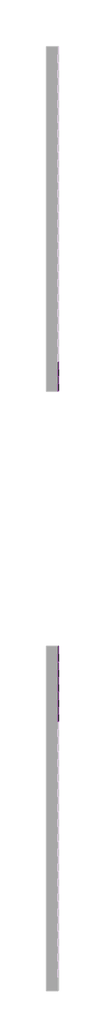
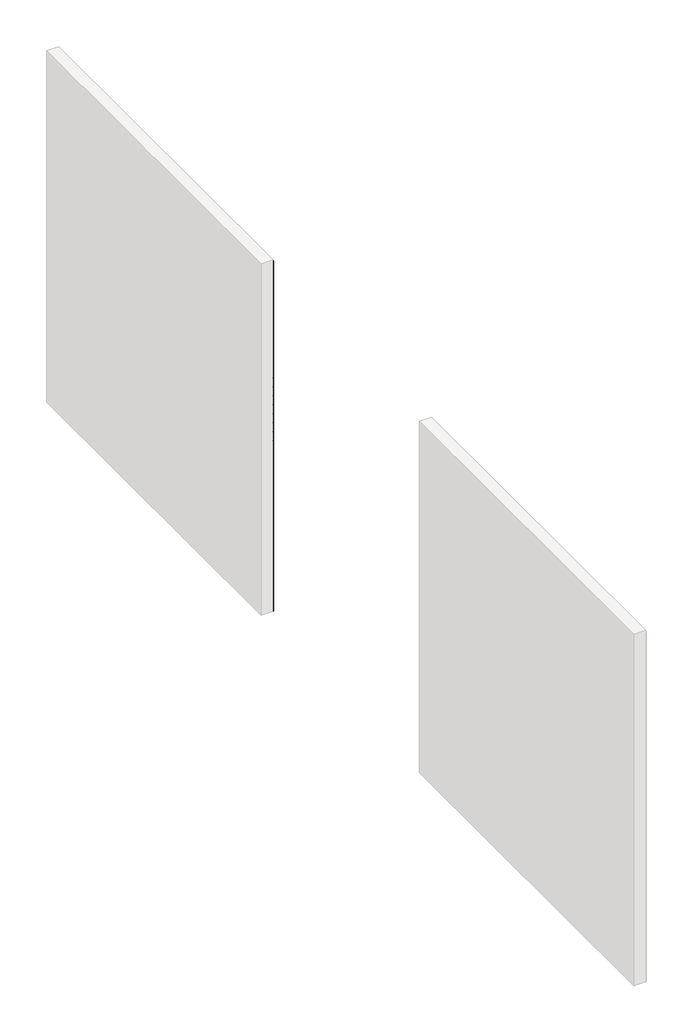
# One storey, part 4 of 45: 147 proxies.
"""IFC4 building model written with IfcOpenShell, lengths in millimetres."""

from ifc_helpers import new_model, si_unit, origin, place, context, project, spatial, transform, mapped, element, save
from components import generic_models_ab0f2c30, generic_models_1527efce

model = new_model("IFC4")

# Units and contexts
model_context = context("Model", 3, world=origin())
ifc_project = project(units=[si_unit("LENGTHUNIT", "METRE", prefix="MILLI")], contexts=[model_context])

# Site, building, storey
site = spatial("IfcSite", under=ifc_project)
building = spatial("IfcBuilding", under=site)
storey = spatial("IfcBuildingStorey", under=building, Name="PORTOBELLO - SHOWROOM", Elevation=0.0)

# Proxies
placement = place(None, origin())
generic_models_shape = generic_models_ab0f2c30(model_context)
element("IfcBuildingElementProxy", 1, Name="PBSHOP - HORIZONTES JAIPUR 6,5X23 : JAIPUR CHANDRA", ObjectType="PBSHOP - HORIZONTES JAIPUR 6,5X23 : JAIPUR CHANDRA", at=placement, inside=storey, context=model_context, shape_type="MappedRepresentation", body=[
    mapped(generic_models_shape, transform((63939.1036979, 3443.9760255, 724.5), x_axis=(0.0, 0.0, 1.0), y_axis=(0.0, -1.0, 0.0), z_axis=(1.0, 0.0, 0.0))),
])
element("IfcBuildingElementProxy", 2, Name="PBSHOP - HORIZONTES JAIPUR 6,5X23 : JAIPUR CHANDRA", ObjectType="PBSHOP - HORIZONTES JAIPUR 6,5X23 : JAIPUR CHANDRA", at=placement, inside=storey, context=model_context, shape_type="MappedRepresentation", body=[
    mapped(generic_models_shape, transform((63939.1036979, 3209.9760255, 793.5), x_axis=(0.0, 0.0, 1.0), y_axis=(0.0, -1.0, 0.0), z_axis=(1.0, 0.0, 0.0))),
])
element("IfcBuildingElementProxy", 3, Name="PBSHOP - HORIZONTES JAIPUR 6,5X23 : JAIPUR CHANDRA", ObjectType="PBSHOP - HORIZONTES JAIPUR 6,5X23 : JAIPUR CHANDRA", at=placement, inside=storey, context=model_context, shape_type="MappedRepresentation", body=[
    mapped(generic_models_shape, transform((63939.1036979, 3443.9760255, 793.5), x_axis=(0.0, 0.0, 1.0), y_axis=(0.0, -1.0, 0.0), z_axis=(1.0, 0.0, 0.0))),
])
element("IfcBuildingElementProxy", 4, Name="PBSHOP - HORIZONTES JAIPUR 6,5X23 : JAIPUR CHANDRA", ObjectType="PBSHOP - HORIZONTES JAIPUR 6,5X23 : JAIPUR CHANDRA", at=placement, inside=storey, context=model_context, shape_type="MappedRepresentation", body=[
    mapped(generic_models_shape, transform((63939.1036979, 3209.9760255, 862.5), x_axis=(0.0, 0.0, 1.0), y_axis=(0.0, -1.0, 0.0), z_axis=(1.0, 0.0, 0.0))),
])
element("IfcBuildingElementProxy", 5, Name="PBSHOP - HORIZONTES JAIPUR 6,5X23 : JAIPUR CHANDRA", ObjectType="PBSHOP - HORIZONTES JAIPUR 6,5X23 : JAIPUR CHANDRA", at=placement, inside=storey, context=model_context, shape_type="MappedRepresentation", body=[
    mapped(generic_models_shape, transform((63939.1036979, 3443.9760255, 862.5), x_axis=(0.0, 0.0, 1.0), y_axis=(0.0, -1.0, 0.0), z_axis=(1.0, 0.0, 0.0))),
])
element("IfcBuildingElementProxy", 6, Name="PBSHOP - HORIZONTES JAIPUR 6,5X23 : JAIPUR CHANDRA", ObjectType="PBSHOP - HORIZONTES JAIPUR 6,5X23 : JAIPUR CHANDRA", at=placement, inside=storey, context=model_context, shape_type="MappedRepresentation", body=[
    mapped(generic_models_shape, transform((63939.1036979, 3209.9760255, 931.5), x_axis=(0.0, 0.0, 1.0), y_axis=(0.0, -1.0, 0.0), z_axis=(1.0, 0.0, 0.0))),
])
element("IfcBuildingElementProxy", 7, Name="PBSHOP - HORIZONTES JAIPUR 6,5X23 : JAIPUR CHANDRA", ObjectType="PBSHOP - HORIZONTES JAIPUR 6,5X23 : JAIPUR CHANDRA", at=placement, inside=storey, context=model_context, shape_type="MappedRepresentation", body=[
    mapped(generic_models_shape, transform((63939.1036979, 3443.9760255, 931.5), x_axis=(0.0, 0.0, 1.0), y_axis=(0.0, -1.0, 0.0), z_axis=(1.0, 0.0, 0.0))),
])
element("IfcBuildingElementProxy", 8, Name="PBSHOP - HORIZONTES JAIPUR 6,5X23 : JAIPUR CHANDRA", ObjectType="PBSHOP - HORIZONTES JAIPUR 6,5X23 : JAIPUR CHANDRA", at=placement, inside=storey, context=model_context, shape_type="MappedRepresentation", body=[
    mapped(generic_models_shape, transform((63939.1036979, 3209.9760255, 1000.5), x_axis=(0.0, 0.0, 1.0), y_axis=(0.0, -1.0, 0.0), z_axis=(1.0, 0.0, 0.0))),
])
element("IfcBuildingElementProxy", 9, Name="PBSHOP - HORIZONTES JAIPUR 6,5X23 : JAIPUR CHANDRA", ObjectType="PBSHOP - HORIZONTES JAIPUR 6,5X23 : JAIPUR CHANDRA", at=placement, inside=storey, context=model_context, shape_type="MappedRepresentation", body=[
    mapped(generic_models_shape, transform((63939.1036979, 3443.9760255, 1000.5), x_axis=(0.0, 0.0, 1.0), y_axis=(0.0, -1.0, 0.0), z_axis=(1.0, 0.0, 0.0))),
])
element("IfcBuildingElementProxy", 10, Name="PBSHOP - HORIZONTES JAIPUR 6,5X23 : JAIPUR CHANDRA", ObjectType="PBSHOP - HORIZONTES JAIPUR 6,5X23 : JAIPUR CHANDRA", at=placement, inside=storey, context=model_context, shape_type="MappedRepresentation", body=[
    mapped(generic_models_shape, transform((63939.1036979, 3209.9760255, 1069.5), x_axis=(0.0, 0.0, 1.0), y_axis=(0.0, -1.0, 0.0), z_axis=(1.0, 0.0, 0.0))),
])
element("IfcBuildingElementProxy", 11, Name="PBSHOP - HORIZONTES JAIPUR 6,5X23 : JAIPUR CHANDRA", ObjectType="PBSHOP - HORIZONTES JAIPUR 6,5X23 : JAIPUR CHANDRA", at=placement, inside=storey, context=model_context, shape_type="MappedRepresentation", body=[
    mapped(generic_models_shape, transform((63939.1036979, 3443.9760255, 1069.5), x_axis=(0.0, 0.0, 1.0), y_axis=(0.0, -1.0, 0.0), z_axis=(1.0, 0.0, 0.0))),
])
element("IfcBuildingElementProxy", 12, Name="PBSHOP - HORIZONTES JAIPUR 6,5X23 : JAIPUR CHANDRA", ObjectType="PBSHOP - HORIZONTES JAIPUR 6,5X23 : JAIPUR CHANDRA", at=placement, inside=storey, context=model_context, shape_type="MappedRepresentation", body=[
    mapped(generic_models_shape, transform((63939.1036979, 3209.9760255, 1138.5), x_axis=(0.0, 0.0, 1.0), y_axis=(0.0, -1.0, 0.0), z_axis=(1.0, 0.0, 0.0))),
])
element("IfcBuildingElementProxy", 13, Name="PBSHOP - HORIZONTES JAIPUR 6,5X23 : JAIPUR CHANDRA", ObjectType="PBSHOP - HORIZONTES JAIPUR 6,5X23 : JAIPUR CHANDRA", at=placement, inside=storey, context=model_context, shape_type="MappedRepresentation", body=[
    mapped(generic_models_shape, transform((63939.1036979, 3443.9760255, 1138.5), x_axis=(0.0, 0.0, 1.0), y_axis=(0.0, -1.0, 0.0), z_axis=(1.0, 0.0, 0.0))),
])
element("IfcBuildingElementProxy", 14, Name="PBSHOP - HORIZONTES JAIPUR 6,5X23 : JAIPUR CHANDRA", ObjectType="PBSHOP - HORIZONTES JAIPUR 6,5X23 : JAIPUR CHANDRA", at=placement, inside=storey, context=model_context, shape_type="MappedRepresentation", body=[
    mapped(generic_models_shape, transform((63939.1036979, 3209.9760255, 1207.5), x_axis=(0.0, 0.0, 1.0), y_axis=(0.0, -1.0, 0.0), z_axis=(1.0, 0.0, 0.0))),
])
element("IfcBuildingElementProxy", 15, Name="PBSHOP - HORIZONTES JAIPUR 6,5X23 : JAIPUR CHANDRA", ObjectType="PBSHOP - HORIZONTES JAIPUR 6,5X23 : JAIPUR CHANDRA", at=placement, inside=storey, context=model_context, shape_type="MappedRepresentation", body=[
    mapped(generic_models_shape, transform((63939.1036979, 3443.9760255, 1207.5), x_axis=(0.0, 0.0, 1.0), y_axis=(0.0, -1.0, 0.0), z_axis=(1.0, 0.0, 0.0))),
])
element("IfcBuildingElementProxy", 16, Name="PBSHOP - HORIZONTES JAIPUR 6,5X23 : JAIPUR CHANDRA", ObjectType="PBSHOP - HORIZONTES JAIPUR 6,5X23 : JAIPUR CHANDRA", at=placement, inside=storey, context=model_context, shape_type="MappedRepresentation", body=[
    mapped(generic_models_shape, transform((63939.1036979, 3209.9760255, 1276.5), x_axis=(0.0, 0.0, 1.0), y_axis=(0.0, -1.0, 0.0), z_axis=(1.0, 0.0, 0.0))),
])
element("IfcBuildingElementProxy", 17, Name="PBSHOP - HORIZONTES JAIPUR 6,5X23 : JAIPUR CHANDRA", ObjectType="PBSHOP - HORIZONTES JAIPUR 6,5X23 : JAIPUR CHANDRA", at=placement, inside=storey, context=model_context, shape_type="MappedRepresentation", body=[
    mapped(generic_models_shape, transform((63939.1036979, 3443.9760255, 1276.5), x_axis=(0.0, 0.0, 1.0), y_axis=(0.0, -1.0, 0.0), z_axis=(1.0, 0.0, 0.0))),
])
element("IfcBuildingElementProxy", 18, Name="PBSHOP - HORIZONTES JAIPUR 6,5X23 : JAIPUR CHANDRA", ObjectType="PBSHOP - HORIZONTES JAIPUR 6,5X23 : JAIPUR CHANDRA", at=placement, inside=storey, context=model_context, shape_type="MappedRepresentation", body=[
    mapped(generic_models_shape, transform((63939.1036979, 3209.9760255, 1345.5), x_axis=(0.0, 0.0, 1.0), y_axis=(0.0, -1.0, 0.0), z_axis=(1.0, 0.0, 0.0))),
])
element("IfcBuildingElementProxy", 19, Name="PBSHOP - HORIZONTES JAIPUR 6,5X23 : JAIPUR CHANDRA", ObjectType="PBSHOP - HORIZONTES JAIPUR 6,5X23 : JAIPUR CHANDRA", at=placement, inside=storey, context=model_context, shape_type="MappedRepresentation", body=[
    mapped(generic_models_shape, transform((63939.1036979, 3443.9760255, 1345.5), x_axis=(0.0, 0.0, 1.0), y_axis=(0.0, -1.0, 0.0), z_axis=(1.0, 0.0, 0.0))),
])
element("IfcBuildingElementProxy", 20, Name="PBSHOP - HORIZONTES JAIPUR 6,5X23 : JAIPUR CHANDRA", ObjectType="PBSHOP - HORIZONTES JAIPUR 6,5X23 : JAIPUR CHANDRA", at=placement, inside=storey, context=model_context, shape_type="MappedRepresentation", body=[
    mapped(generic_models_shape, transform((63939.1036979, 3209.9760255, 1414.5), x_axis=(0.0, 0.0, 1.0), y_axis=(0.0, -1.0, 0.0), z_axis=(1.0, 0.0, 0.0))),
])
element("IfcBuildingElementProxy", 21, Name="PBSHOP - HORIZONTES JAIPUR 6,5X23 : JAIPUR CHANDRA", ObjectType="PBSHOP - HORIZONTES JAIPUR 6,5X23 : JAIPUR CHANDRA", at=placement, inside=storey, context=model_context, shape_type="MappedRepresentation", body=[
    mapped(generic_models_shape, transform((63939.1036979, 3443.9760255, 1414.5), x_axis=(0.0, 0.0, 1.0), y_axis=(0.0, -1.0, 0.0), z_axis=(1.0, 0.0, 0.0))),
])
element("IfcBuildingElementProxy", 22, Name="PBSHOP - HORIZONTES JAIPUR 6,5X23 : JAIPUR CHANDRA", ObjectType="PBSHOP - HORIZONTES JAIPUR 6,5X23 : JAIPUR CHANDRA", at=placement, inside=storey, context=model_context, shape_type="MappedRepresentation", body=[
    mapped(generic_models_shape, transform((63939.1036979, 3209.9760255, 1483.5), x_axis=(0.0, 0.0, 1.0), y_axis=(0.0, -1.0, 0.0), z_axis=(1.0, 0.0, 0.0))),
])
element("IfcBuildingElementProxy", 23, Name="PBSHOP - HORIZONTES JAIPUR 6,5X23 : JAIPUR CHANDRA", ObjectType="PBSHOP - HORIZONTES JAIPUR 6,5X23 : JAIPUR CHANDRA", at=placement, inside=storey, context=model_context, shape_type="MappedRepresentation", body=[
    mapped(generic_models_shape, transform((63939.1036979, 3443.9760255, 1483.5), x_axis=(0.0, 0.0, 1.0), y_axis=(0.0, -1.0, 0.0), z_axis=(1.0, 0.0, 0.0))),
])
element("IfcBuildingElementProxy", 24, Name="PBSHOP - HORIZONTES JAIPUR 6,5X23 : JAIPUR CHANDRA", ObjectType="PBSHOP - HORIZONTES JAIPUR 6,5X23 : JAIPUR CHANDRA", at=placement, inside=storey, context=model_context, shape_type="MappedRepresentation", body=[
    mapped(generic_models_shape, transform((63939.1036979, 3209.9760255, 1552.5), x_axis=(0.0, 0.0, 1.0), y_axis=(0.0, -1.0, 0.0), z_axis=(1.0, 0.0, 0.0))),
])
element("IfcBuildingElementProxy", 25, Name="PBSHOP - HORIZONTES JAIPUR 6,5X23 : JAIPUR CHANDRA", ObjectType="PBSHOP - HORIZONTES JAIPUR 6,5X23 : JAIPUR CHANDRA", at=placement, inside=storey, context=model_context, shape_type="MappedRepresentation", body=[
    mapped(generic_models_shape, transform((63939.1036979, 3443.9760255, 1552.5), x_axis=(0.0, 0.0, 1.0), y_axis=(0.0, -1.0, 0.0), z_axis=(1.0, 0.0, 0.0))),
])
element("IfcBuildingElementProxy", 26, Name="PBSHOP - HORIZONTES JAIPUR 6,5X23 : JAIPUR CHANDRA", ObjectType="PBSHOP - HORIZONTES JAIPUR 6,5X23 : JAIPUR CHANDRA", at=placement, inside=storey, context=model_context, shape_type="MappedRepresentation", body=[
    mapped(generic_models_shape, transform((63939.1036979, 3209.9760255, 1621.5), x_axis=(0.0, 0.0, 1.0), y_axis=(0.0, -1.0, 0.0), z_axis=(1.0, 0.0, 0.0))),
])
element("IfcBuildingElementProxy", 27, Name="PBSHOP - HORIZONTES JAIPUR 6,5X23 : JAIPUR CHANDRA", ObjectType="PBSHOP - HORIZONTES JAIPUR 6,5X23 : JAIPUR CHANDRA", at=placement, inside=storey, context=model_context, shape_type="MappedRepresentation", body=[
    mapped(generic_models_shape, transform((63939.1036979, 3443.9760255, 1621.5), x_axis=(0.0, 0.0, 1.0), y_axis=(0.0, -1.0, 0.0), z_axis=(1.0, 0.0, 0.0))),
])
element("IfcBuildingElementProxy", 28, Name="PBSHOP - HORIZONTES JAIPUR 6,5X23 : JAIPUR CHANDRA", ObjectType="PBSHOP - HORIZONTES JAIPUR 6,5X23 : JAIPUR CHANDRA", at=placement, inside=storey, context=model_context, shape_type="MappedRepresentation", body=[
    mapped(generic_models_shape, transform((63939.1036979, 3209.9760255, 1690.5), x_axis=(0.0, 0.0, 1.0), y_axis=(0.0, -1.0, 0.0), z_axis=(1.0, 0.0, 0.0))),
])
element("IfcBuildingElementProxy", 29, Name="PBSHOP - HORIZONTES JAIPUR 6,5X23 : JAIPUR CHANDRA", ObjectType="PBSHOP - HORIZONTES JAIPUR 6,5X23 : JAIPUR CHANDRA", at=placement, inside=storey, context=model_context, shape_type="MappedRepresentation", body=[
    mapped(generic_models_shape, transform((63939.1036979, 3443.9760255, 1690.5), x_axis=(0.0, 0.0, 1.0), y_axis=(0.0, -1.0, 0.0), z_axis=(1.0, 0.0, 0.0))),
])
element("IfcBuildingElementProxy", 30, Name="PBSHOP - HORIZONTES JAIPUR 6,5X23 : JAIPUR CHANDRA", ObjectType="PBSHOP - HORIZONTES JAIPUR 6,5X23 : JAIPUR CHANDRA", at=placement, inside=storey, context=model_context, shape_type="MappedRepresentation", body=[
    mapped(generic_models_shape, transform((63939.1036979, 3209.9760255, 1759.5), x_axis=(0.0, 0.0, 1.0), y_axis=(0.0, -1.0, 0.0), z_axis=(1.0, 0.0, 0.0))),
])
element("IfcBuildingElementProxy", 31, Name="PBSHOP - HORIZONTES JAIPUR 6,5X23 : JAIPUR CHANDRA", ObjectType="PBSHOP - HORIZONTES JAIPUR 6,5X23 : JAIPUR CHANDRA", at=placement, inside=storey, context=model_context, shape_type="MappedRepresentation", body=[
    mapped(generic_models_shape, transform((63939.1036979, 3443.9760255, 1759.5), x_axis=(0.0, 0.0, 1.0), y_axis=(0.0, -1.0, 0.0), z_axis=(1.0, 0.0, 0.0))),
])
element("IfcBuildingElementProxy", 32, Name="PBSHOP - HORIZONTES JAIPUR 6,5X23 : JAIPUR CHANDRA", ObjectType="PBSHOP - HORIZONTES JAIPUR 6,5X23 : JAIPUR CHANDRA", at=placement, inside=storey, context=model_context, shape_type="MappedRepresentation", body=[
    mapped(generic_models_shape, transform((63939.1036979, 3209.9760255, 1828.5), x_axis=(0.0, 0.0, 1.0), y_axis=(0.0, -1.0, 0.0), z_axis=(1.0, 0.0, 0.0))),
])
element("IfcBuildingElementProxy", 33, Name="PBSHOP - HORIZONTES JAIPUR 6,5X23 : JAIPUR CHANDRA", ObjectType="PBSHOP - HORIZONTES JAIPUR 6,5X23 : JAIPUR CHANDRA", at=placement, inside=storey, context=model_context, shape_type="MappedRepresentation", body=[
    mapped(generic_models_shape, transform((63939.1036979, 3443.9760255, 1828.5), x_axis=(0.0, 0.0, 1.0), y_axis=(0.0, -1.0, 0.0), z_axis=(1.0, 0.0, 0.0))),
])
element("IfcBuildingElementProxy", 34, Name="PBSHOP - HORIZONTES JAIPUR 6,5X23 : JAIPUR CHANDRA", ObjectType="PBSHOP - HORIZONTES JAIPUR 6,5X23 : JAIPUR CHANDRA", at=placement, inside=storey, context=model_context, shape_type="MappedRepresentation", body=[
    mapped(generic_models_shape, transform((63939.1036979, 3209.9760255, 1897.5), x_axis=(0.0, 0.0, 1.0), y_axis=(0.0, -1.0, 0.0), z_axis=(1.0, 0.0, 0.0))),
])
element("IfcBuildingElementProxy", 35, Name="PBSHOP - HORIZONTES JAIPUR 6,5X23 : JAIPUR CHANDRA", ObjectType="PBSHOP - HORIZONTES JAIPUR 6,5X23 : JAIPUR CHANDRA", at=placement, inside=storey, context=model_context, shape_type="MappedRepresentation", body=[
    mapped(generic_models_shape, transform((63939.1036979, 3443.9760255, 1897.5), x_axis=(0.0, 0.0, 1.0), y_axis=(0.0, -1.0, 0.0), z_axis=(1.0, 0.0, 0.0))),
])
element("IfcBuildingElementProxy", 36, Name="PBSHOP - HORIZONTES JAIPUR 6,5X23 : JAIPUR CHANDRA", ObjectType="PBSHOP - HORIZONTES JAIPUR 6,5X23 : JAIPUR CHANDRA", at=placement, inside=storey, context=model_context, shape_type="MappedRepresentation", body=[
    mapped(generic_models_shape, transform((63939.1036979, 3209.9760255, 1966.5), x_axis=(0.0, 0.0, 1.0), y_axis=(0.0, -1.0, 0.0), z_axis=(1.0, 0.0, 0.0))),
])
element("IfcBuildingElementProxy", 37, Name="PBSHOP - HORIZONTES JAIPUR 6,5X23 : JAIPUR CHANDRA", ObjectType="PBSHOP - HORIZONTES JAIPUR 6,5X23 : JAIPUR CHANDRA", at=placement, inside=storey, context=model_context, shape_type="MappedRepresentation", body=[
    mapped(generic_models_shape, transform((63939.1036979, 3443.9760255, 1966.5), x_axis=(0.0, 0.0, 1.0), y_axis=(0.0, -1.0, 0.0), z_axis=(1.0, 0.0, 0.0))),
])
element("IfcBuildingElementProxy", 38, Name="PBSHOP - HORIZONTES JAIPUR 6,5X23 : JAIPUR CHANDRA", ObjectType="PBSHOP - HORIZONTES JAIPUR 6,5X23 : JAIPUR CHANDRA", at=placement, inside=storey, context=model_context, shape_type="MappedRepresentation", body=[
    mapped(generic_models_shape, transform((63939.1036979, 3209.9760255, 2035.5), x_axis=(0.0, 0.0, 1.0), y_axis=(0.0, -1.0, 0.0), z_axis=(1.0, 0.0, 0.0))),
])
element("IfcBuildingElementProxy", 39, Name="PBSHOP - HORIZONTES JAIPUR 6,5X23 : JAIPUR CHANDRA", ObjectType="PBSHOP - HORIZONTES JAIPUR 6,5X23 : JAIPUR CHANDRA", at=placement, inside=storey, context=model_context, shape_type="MappedRepresentation", body=[
    mapped(generic_models_shape, transform((63939.1036979, 3443.9760255, 2035.5), x_axis=(0.0, 0.0, 1.0), y_axis=(0.0, -1.0, 0.0), z_axis=(1.0, 0.0, 0.0))),
])
element("IfcBuildingElementProxy", 40, Name="PBSHOP - HORIZONTES JAIPUR 6,5X23 : JAIPUR CHANDRA", ObjectType="PBSHOP - HORIZONTES JAIPUR 6,5X23 : JAIPUR CHANDRA", at=placement, inside=storey, context=model_context, shape_type="MappedRepresentation", body=[
    mapped(generic_models_shape, transform((63939.1036979, 3209.9760255, 2104.5), x_axis=(0.0, 0.0, 1.0), y_axis=(0.0, -1.0, 0.0), z_axis=(1.0, 0.0, 0.0))),
])
element("IfcBuildingElementProxy", 41, Name="PBSHOP - HORIZONTES JAIPUR 6,5X23 : JAIPUR CHANDRA", ObjectType="PBSHOP - HORIZONTES JAIPUR 6,5X23 : JAIPUR CHANDRA", at=placement, inside=storey, context=model_context, shape_type="MappedRepresentation", body=[
    mapped(generic_models_shape, transform((63939.1036979, 3443.9760255, 2104.5), x_axis=(0.0, 0.0, 1.0), y_axis=(0.0, -1.0, 0.0), z_axis=(1.0, 0.0, 0.0))),
])
element("IfcBuildingElementProxy", 42, Name="PBSHOP - HORIZONTES JAIPUR 6,5X23 : JAIPUR CHANDRA", ObjectType="PBSHOP - HORIZONTES JAIPUR 6,5X23 : JAIPUR CHANDRA", at=placement, inside=storey, context=model_context, shape_type="MappedRepresentation", body=[
    mapped(generic_models_shape, transform((63939.1036979, 3209.9760255, 2173.5), x_axis=(0.0, 0.0, 1.0), y_axis=(0.0, -1.0, 0.0), z_axis=(1.0, 0.0, 0.0))),
])
element("IfcBuildingElementProxy", 43, Name="PBSHOP - HORIZONTES JAIPUR 6,5X23 : JAIPUR CHANDRA", ObjectType="PBSHOP - HORIZONTES JAIPUR 6,5X23 : JAIPUR CHANDRA", at=placement, inside=storey, context=model_context, shape_type="MappedRepresentation", body=[
    mapped(generic_models_shape, transform((63939.1036979, 3443.9760255, 2173.5), x_axis=(0.0, 0.0, 1.0), y_axis=(0.0, -1.0, 0.0), z_axis=(1.0, 0.0, 0.0))),
])
element("IfcBuildingElementProxy", 44, Name="PBSHOP - HORIZONTES JAIPUR 6,5X23 : JAIPUR CHANDRA", ObjectType="PBSHOP - HORIZONTES JAIPUR 6,5X23 : JAIPUR CHANDRA", at=placement, inside=storey, context=model_context, shape_type="MappedRepresentation", body=[
    mapped(generic_models_shape, transform((63939.1036979, 3209.9760255, 2242.5), x_axis=(0.0, 0.0, 1.0), y_axis=(0.0, -1.0, 0.0), z_axis=(1.0, 0.0, 0.0))),
])
element("IfcBuildingElementProxy", 45, Name="PBSHOP - HORIZONTES JAIPUR 6,5X23 : JAIPUR CHANDRA", ObjectType="PBSHOP - HORIZONTES JAIPUR 6,5X23 : JAIPUR CHANDRA", at=placement, inside=storey, context=model_context, shape_type="MappedRepresentation", body=[
    mapped(generic_models_shape, transform((63939.1036979, 3443.9760255, 2242.5), x_axis=(0.0, 0.0, 1.0), y_axis=(0.0, -1.0, 0.0), z_axis=(1.0, 0.0, 0.0))),
])
element("IfcBuildingElementProxy", 46, Name="PBSHOP - HORIZONTES JAIPUR 6,5X23 : JAIPUR CHANDRA", ObjectType="PBSHOP - HORIZONTES JAIPUR 6,5X23 : JAIPUR CHANDRA", at=placement, inside=storey, context=model_context, shape_type="MappedRepresentation", body=[
    mapped(generic_models_shape, transform((63939.1036979, 3209.9760255, 2311.5), x_axis=(0.0, 0.0, 1.0), y_axis=(0.0, -1.0, 0.0), z_axis=(1.0, 0.0, 0.0))),
])
element("IfcBuildingElementProxy", 47, Name="PBSHOP - HORIZONTES JAIPUR 6,5X23 : JAIPUR CHANDRA", ObjectType="PBSHOP - HORIZONTES JAIPUR 6,5X23 : JAIPUR CHANDRA", at=placement, inside=storey, context=model_context, shape_type="MappedRepresentation", body=[
    mapped(generic_models_shape, transform((63939.1036979, 3443.9760255, 2311.5), x_axis=(0.0, 0.0, 1.0), y_axis=(0.0, -1.0, 0.0), z_axis=(1.0, 0.0, 0.0))),
])
element("IfcBuildingElementProxy", 48, Name="PBSHOP - HORIZONTES JAIPUR 6,5X23 : JAIPUR CHANDRA", ObjectType="PBSHOP - HORIZONTES JAIPUR 6,5X23 : JAIPUR CHANDRA", at=placement, inside=storey, context=model_context, shape_type="MappedRepresentation", body=[
    mapped(generic_models_shape, transform((63939.1036979, 3209.9760255, 2380.5), x_axis=(0.0, 0.0, 1.0), y_axis=(0.0, -1.0, 0.0), z_axis=(1.0, 0.0, 0.0))),
])
element("IfcBuildingElementProxy", 49, Name="PBSHOP - HORIZONTES JAIPUR 6,5X23 : JAIPUR CHANDRA", ObjectType="PBSHOP - HORIZONTES JAIPUR 6,5X23 : JAIPUR CHANDRA", at=placement, inside=storey, context=model_context, shape_type="MappedRepresentation", body=[
    mapped(generic_models_shape, transform((63939.1036979, 3443.9760255, 2380.5), x_axis=(0.0, 0.0, 1.0), y_axis=(0.0, -1.0, 0.0), z_axis=(1.0, 0.0, 0.0))),
])
element("IfcBuildingElementProxy", 50, Name="PBSHOP - HORIZONTES JAIPUR 6,5X23 : JAIPUR CHANDRA", ObjectType="PBSHOP - HORIZONTES JAIPUR 6,5X23 : JAIPUR CHANDRA", at=placement, inside=storey, context=model_context, shape_type="MappedRepresentation", body=[
    mapped(generic_models_shape, transform((63939.1036979, 3209.9760255, 2449.5), x_axis=(0.0, 0.0, 1.0), y_axis=(0.0, -1.0, 0.0), z_axis=(1.0, 0.0, 0.0))),
])
element("IfcBuildingElementProxy", 51, Name="PBSHOP - HORIZONTES JAIPUR 6,5X23 : JAIPUR CHANDRA", ObjectType="PBSHOP - HORIZONTES JAIPUR 6,5X23 : JAIPUR CHANDRA", at=placement, inside=storey, context=model_context, shape_type="MappedRepresentation", body=[
    mapped(generic_models_shape, transform((63939.1036979, 3443.9760255, 2449.5), x_axis=(0.0, 0.0, 1.0), y_axis=(0.0, -1.0, 0.0), z_axis=(1.0, 0.0, 0.0))),
])
element("IfcBuildingElementProxy", 52, Name="PBSHOP - HORIZONTES JAIPUR 6,5X23 : JAIPUR CHANDRA", ObjectType="PBSHOP - HORIZONTES JAIPUR 6,5X23 : JAIPUR CHANDRA", at=placement, inside=storey, context=model_context, shape_type="MappedRepresentation", body=[
    mapped(generic_models_shape, transform((63939.1036979, 3209.9760255, 2518.5), x_axis=(0.0, 0.0, 1.0), y_axis=(0.0, -1.0, 0.0), z_axis=(1.0, 0.0, 0.0))),
])
element("IfcBuildingElementProxy", 53, Name="PBSHOP - HORIZONTES JAIPUR 6,5X23 : JAIPUR CHANDRA", ObjectType="PBSHOP - HORIZONTES JAIPUR 6,5X23 : JAIPUR CHANDRA", at=placement, inside=storey, context=model_context, shape_type="MappedRepresentation", body=[
    mapped(generic_models_shape, transform((63939.1036979, 3443.9760255, 2518.5), x_axis=(0.0, 0.0, 1.0), y_axis=(0.0, -1.0, 0.0), z_axis=(1.0, 0.0, 0.0))),
])
element("IfcBuildingElementProxy", 54, Name="PBSHOP - HORIZONTES JAIPUR 6,5X23 : JAIPUR CHANDRA", ObjectType="PBSHOP - HORIZONTES JAIPUR 6,5X23 : JAIPUR CHANDRA", at=placement, inside=storey, context=model_context, shape_type="MappedRepresentation", body=[
    mapped(generic_models_shape, transform((63939.1036979, 3209.9760255, 2587.5), x_axis=(0.0, 0.0, 1.0), y_axis=(0.0, -1.0, 0.0), z_axis=(1.0, 0.0, 0.0))),
])
element("IfcBuildingElementProxy", 55, Name="PBSHOP - HORIZONTES JAIPUR 6,5X23 : JAIPUR CHANDRA", ObjectType="PBSHOP - HORIZONTES JAIPUR 6,5X23 : JAIPUR CHANDRA", at=placement, inside=storey, context=model_context, shape_type="MappedRepresentation", body=[
    mapped(generic_models_shape, transform((63939.1036979, 3443.9760255, 2587.5), x_axis=(0.0, 0.0, 1.0), y_axis=(0.0, -1.0, 0.0), z_axis=(1.0, 0.0, 0.0))),
])
element("IfcBuildingElementProxy", 56, Name="PBSHOP - HORIZONTES JAIPUR 6,5X23 : JAIPUR CHANDRA", ObjectType="PBSHOP - HORIZONTES JAIPUR 6,5X23 : JAIPUR CHANDRA", at=placement, inside=storey, context=model_context, shape_type="MappedRepresentation", body=[
    mapped(generic_models_shape, transform((63939.1036979, 3209.9760255, 2656.5), x_axis=(0.0, 0.0, 1.0), y_axis=(0.0, -1.0, 0.0), z_axis=(1.0, 0.0, 0.0))),
])
element("IfcBuildingElementProxy", 57, Name="PBSHOP - HORIZONTES JAIPUR 6,5X23 : JAIPUR CHANDRA", ObjectType="PBSHOP - HORIZONTES JAIPUR 6,5X23 : JAIPUR CHANDRA", at=placement, inside=storey, context=model_context, shape_type="MappedRepresentation", body=[
    mapped(generic_models_shape, transform((63939.1036979, 3443.9760255, 2656.5), x_axis=(0.0, 0.0, 1.0), y_axis=(0.0, -1.0, 0.0), z_axis=(1.0, 0.0, 0.0))),
])
element("IfcBuildingElementProxy", 58, Name="PBSHOP - HORIZONTES NEW YORK 6,5X23 : NEW YORK DOWNTOWN", ObjectType="PBSHOP - HORIZONTES NEW YORK 6,5X23 : NEW YORK DOWNTOWN", at=placement, inside=storey, context=model_context, shape_type="MappedRepresentation", body=[
    mapped(generic_models_shape, transform((63939.1036979, 5798.0036359, 34.5), x_axis=(0.0, 0.0, 1.0), y_axis=(0.0, -1.0, 0.0), z_axis=(1.0, 0.0, 0.0))),
])
element("IfcBuildingElementProxy", 59, Name="PBSHOP - HORIZONTES NEW YORK 6,5X23 : NEW YORK DOWNTOWN", ObjectType="PBSHOP - HORIZONTES NEW YORK 6,5X23 : NEW YORK DOWNTOWN", at=placement, inside=storey, context=model_context, shape_type="MappedRepresentation", body=[
    mapped(generic_models_shape, transform((63939.1036979, 6032.0036359, 34.5), x_axis=(0.0, 0.0, 1.0), y_axis=(0.0, -1.0, 0.0), z_axis=(1.0, 0.0, 0.0))),
])
element("IfcBuildingElementProxy", 60, Name="PBSHOP - HORIZONTES NEW YORK 6,5X23 : NEW YORK DOWNTOWN", ObjectType="PBSHOP - HORIZONTES NEW YORK 6,5X23 : NEW YORK DOWNTOWN", at=placement, inside=storey, context=model_context, shape_type="MappedRepresentation", body=[
    mapped(generic_models_shape, transform((63939.1036979, 6266.0036359, 34.5), x_axis=(0.0, 0.0, 1.0), y_axis=(0.0, -1.0, 0.0), z_axis=(1.0, 0.0, 0.0))),
])
element("IfcBuildingElementProxy", 61, Name="PBSHOP - HORIZONTES NEW YORK 6,5X23 : NEW YORK DOWNTOWN", ObjectType="PBSHOP - HORIZONTES NEW YORK 6,5X23 : NEW YORK DOWNTOWN", at=placement, inside=storey, context=model_context, shape_type="MappedRepresentation", body=[
    mapped(generic_models_shape, transform((63939.1036979, 6500.0036359, 34.5), x_axis=(0.0, 0.0, 1.0), y_axis=(0.0, -1.0, 0.0), z_axis=(1.0, 0.0, 0.0))),
])
element("IfcBuildingElementProxy", 62, Name="PBSHOP - HORIZONTES NEW YORK 6,5X23 : NEW YORK DOWNTOWN", ObjectType="PBSHOP - HORIZONTES NEW YORK 6,5X23 : NEW YORK DOWNTOWN", at=placement, inside=storey, context=model_context, shape_type="MappedRepresentation", body=[
    mapped(generic_models_shape, transform((63939.1036979, 6734.0036359, 34.5), x_axis=(0.0, 0.0, 1.0), y_axis=(0.0, -1.0, 0.0), z_axis=(1.0, 0.0, 0.0))),
])
element("IfcBuildingElementProxy", 63, Name="PBSHOP - HORIZONTES NEW YORK 6,5X23 : NEW YORK DOWNTOWN", ObjectType="PBSHOP - HORIZONTES NEW YORK 6,5X23 : NEW YORK DOWNTOWN", at=placement, inside=storey, context=model_context, shape_type="MappedRepresentation", body=[
    mapped(generic_models_shape, transform((63939.1036979, 6968.0036359, 34.5), x_axis=(0.0, 0.0, 1.0), y_axis=(0.0, -1.0, 0.0), z_axis=(1.0, 0.0, 0.0))),
])
element("IfcBuildingElementProxy", 64, Name="PBSHOP - HORIZONTES NEW YORK 6,5X23 : NEW YORK DOWNTOWN", ObjectType="PBSHOP - HORIZONTES NEW YORK 6,5X23 : NEW YORK DOWNTOWN", at=placement, inside=storey, context=model_context, shape_type="MappedRepresentation", body=[
    mapped(generic_models_shape, transform((63939.1036979, 5798.0036359, 103.5), x_axis=(0.0, 0.0, 1.0), y_axis=(0.0, -1.0, 0.0), z_axis=(1.0, 0.0, 0.0))),
])
element("IfcBuildingElementProxy", 65, Name="PBSHOP - HORIZONTES NEW YORK 6,5X23 : NEW YORK DOWNTOWN", ObjectType="PBSHOP - HORIZONTES NEW YORK 6,5X23 : NEW YORK DOWNTOWN", at=placement, inside=storey, context=model_context, shape_type="MappedRepresentation", body=[
    mapped(generic_models_shape, transform((63939.1036979, 6032.0036359, 103.5), x_axis=(0.0, 0.0, 1.0), y_axis=(0.0, -1.0, 0.0), z_axis=(1.0, 0.0, 0.0))),
])
element("IfcBuildingElementProxy", 66, Name="PBSHOP - HORIZONTES NEW YORK 6,5X23 : NEW YORK DOWNTOWN", ObjectType="PBSHOP - HORIZONTES NEW YORK 6,5X23 : NEW YORK DOWNTOWN", at=placement, inside=storey, context=model_context, shape_type="MappedRepresentation", body=[
    mapped(generic_models_shape, transform((63939.1036979, 6266.0036359, 103.5), x_axis=(0.0, 0.0, 1.0), y_axis=(0.0, -1.0, 0.0), z_axis=(1.0, 0.0, 0.0))),
])
element("IfcBuildingElementProxy", 67, Name="PBSHOP - HORIZONTES NEW YORK 6,5X23 : NEW YORK DOWNTOWN", ObjectType="PBSHOP - HORIZONTES NEW YORK 6,5X23 : NEW YORK DOWNTOWN", at=placement, inside=storey, context=model_context, shape_type="MappedRepresentation", body=[
    mapped(generic_models_shape, transform((63939.1036979, 6500.0036359, 103.5), x_axis=(0.0, 0.0, 1.0), y_axis=(0.0, -1.0, 0.0), z_axis=(1.0, 0.0, 0.0))),
])
element("IfcBuildingElementProxy", 68, Name="PBSHOP - HORIZONTES NEW YORK 6,5X23 : NEW YORK DOWNTOWN", ObjectType="PBSHOP - HORIZONTES NEW YORK 6,5X23 : NEW YORK DOWNTOWN", at=placement, inside=storey, context=model_context, shape_type="MappedRepresentation", body=[
    mapped(generic_models_shape, transform((63939.1036979, 6734.0036359, 103.5), x_axis=(0.0, 0.0, 1.0), y_axis=(0.0, -1.0, 0.0), z_axis=(1.0, 0.0, 0.0))),
])
element("IfcBuildingElementProxy", 69, Name="PBSHOP - HORIZONTES NEW YORK 6,5X23 : NEW YORK DOWNTOWN", ObjectType="PBSHOP - HORIZONTES NEW YORK 6,5X23 : NEW YORK DOWNTOWN", at=placement, inside=storey, context=model_context, shape_type="MappedRepresentation", body=[
    mapped(generic_models_shape, transform((63939.1036979, 6968.0036359, 103.5), x_axis=(0.0, 0.0, 1.0), y_axis=(0.0, -1.0, 0.0), z_axis=(1.0, 0.0, 0.0))),
])
element("IfcBuildingElementProxy", 70, Name="PBSHOP - HORIZONTES NEW YORK 6,5X23 : NEW YORK DOWNTOWN", ObjectType="PBSHOP - HORIZONTES NEW YORK 6,5X23 : NEW YORK DOWNTOWN", at=placement, inside=storey, context=model_context, shape_type="MappedRepresentation", body=[
    mapped(generic_models_shape, transform((63939.1036979, 5798.0036359, 172.5), x_axis=(0.0, 0.0, 1.0), y_axis=(0.0, -1.0, 0.0), z_axis=(1.0, 0.0, 0.0))),
])
element("IfcBuildingElementProxy", 71, Name="PBSHOP - HORIZONTES NEW YORK 6,5X23 : NEW YORK DOWNTOWN", ObjectType="PBSHOP - HORIZONTES NEW YORK 6,5X23 : NEW YORK DOWNTOWN", at=placement, inside=storey, context=model_context, shape_type="MappedRepresentation", body=[
    mapped(generic_models_shape, transform((63939.1036979, 6032.0036359, 172.5), x_axis=(0.0, 0.0, 1.0), y_axis=(0.0, -1.0, 0.0), z_axis=(1.0, 0.0, 0.0))),
])
element("IfcBuildingElementProxy", 72, Name="PBSHOP - HORIZONTES NEW YORK 6,5X23 : NEW YORK DOWNTOWN", ObjectType="PBSHOP - HORIZONTES NEW YORK 6,5X23 : NEW YORK DOWNTOWN", at=placement, inside=storey, context=model_context, shape_type="MappedRepresentation", body=[
    mapped(generic_models_shape, transform((63939.1036979, 6266.0036359, 172.5), x_axis=(0.0, 0.0, 1.0), y_axis=(0.0, -1.0, 0.0), z_axis=(1.0, 0.0, 0.0))),
])
element("IfcBuildingElementProxy", 73, Name="PBSHOP - HORIZONTES NEW YORK 6,5X23 : NEW YORK DOWNTOWN", ObjectType="PBSHOP - HORIZONTES NEW YORK 6,5X23 : NEW YORK DOWNTOWN", at=placement, inside=storey, context=model_context, shape_type="MappedRepresentation", body=[
    mapped(generic_models_shape, transform((63939.1036979, 6500.0036359, 172.5), x_axis=(0.0, 0.0, 1.0), y_axis=(0.0, -1.0, 0.0), z_axis=(1.0, 0.0, 0.0))),
])
element("IfcBuildingElementProxy", 74, Name="PBSHOP - HORIZONTES NEW YORK 6,5X23 : NEW YORK DOWNTOWN", ObjectType="PBSHOP - HORIZONTES NEW YORK 6,5X23 : NEW YORK DOWNTOWN", at=placement, inside=storey, context=model_context, shape_type="MappedRepresentation", body=[
    mapped(generic_models_shape, transform((63939.1036979, 6734.0036359, 172.5), x_axis=(0.0, 0.0, 1.0), y_axis=(0.0, -1.0, 0.0), z_axis=(1.0, 0.0, 0.0))),
])
element("IfcBuildingElementProxy", 75, Name="PBSHOP - HORIZONTES NEW YORK 6,5X23 : NEW YORK DOWNTOWN", ObjectType="PBSHOP - HORIZONTES NEW YORK 6,5X23 : NEW YORK DOWNTOWN", at=placement, inside=storey, context=model_context, shape_type="MappedRepresentation", body=[
    mapped(generic_models_shape, transform((63939.1036979, 6968.0036359, 172.5), x_axis=(0.0, 0.0, 1.0), y_axis=(0.0, -1.0, 0.0), z_axis=(1.0, 0.0, 0.0))),
])
element("IfcBuildingElementProxy", 76, Name="PBSHOP - HORIZONTES NEW YORK 6,5X23 : NEW YORK DOWNTOWN", ObjectType="PBSHOP - HORIZONTES NEW YORK 6,5X23 : NEW YORK DOWNTOWN", at=placement, inside=storey, context=model_context, shape_type="MappedRepresentation", body=[
    mapped(generic_models_shape, transform((63939.1036979, 5798.0036359, 241.5), x_axis=(0.0, 0.0, 1.0), y_axis=(0.0, -1.0, 0.0), z_axis=(1.0, 0.0, 0.0))),
])
element("IfcBuildingElementProxy", 77, Name="PBSHOP - HORIZONTES NEW YORK 6,5X23 : NEW YORK DOWNTOWN", ObjectType="PBSHOP - HORIZONTES NEW YORK 6,5X23 : NEW YORK DOWNTOWN", at=placement, inside=storey, context=model_context, shape_type="MappedRepresentation", body=[
    mapped(generic_models_shape, transform((63939.1036979, 6032.0036359, 241.5), x_axis=(0.0, 0.0, 1.0), y_axis=(0.0, -1.0, 0.0), z_axis=(1.0, 0.0, 0.0))),
])
element("IfcBuildingElementProxy", 78, Name="PBSHOP - HORIZONTES NEW YORK 6,5X23 : NEW YORK DOWNTOWN", ObjectType="PBSHOP - HORIZONTES NEW YORK 6,5X23 : NEW YORK DOWNTOWN", at=placement, inside=storey, context=model_context, shape_type="MappedRepresentation", body=[
    mapped(generic_models_shape, transform((63939.1036979, 6266.0036359, 241.5), x_axis=(0.0, 0.0, 1.0), y_axis=(0.0, -1.0, 0.0), z_axis=(1.0, 0.0, 0.0))),
])
element("IfcBuildingElementProxy", 79, Name="PBSHOP - HORIZONTES NEW YORK 6,5X23 : NEW YORK DOWNTOWN", ObjectType="PBSHOP - HORIZONTES NEW YORK 6,5X23 : NEW YORK DOWNTOWN", at=placement, inside=storey, context=model_context, shape_type="MappedRepresentation", body=[
    mapped(generic_models_shape, transform((63939.1036979, 6500.0036359, 241.5), x_axis=(0.0, 0.0, 1.0), y_axis=(0.0, -1.0, 0.0), z_axis=(1.0, 0.0, 0.0))),
])
element("IfcBuildingElementProxy", 80, Name="PBSHOP - HORIZONTES NEW YORK 6,5X23 : NEW YORK DOWNTOWN", ObjectType="PBSHOP - HORIZONTES NEW YORK 6,5X23 : NEW YORK DOWNTOWN", at=placement, inside=storey, context=model_context, shape_type="MappedRepresentation", body=[
    mapped(generic_models_shape, transform((63939.1036979, 6734.0036359, 241.5), x_axis=(0.0, 0.0, 1.0), y_axis=(0.0, -1.0, 0.0), z_axis=(1.0, 0.0, 0.0))),
])
element("IfcBuildingElementProxy", 81, Name="PBSHOP - HORIZONTES NEW YORK 6,5X23 : NEW YORK DOWNTOWN", ObjectType="PBSHOP - HORIZONTES NEW YORK 6,5X23 : NEW YORK DOWNTOWN", at=placement, inside=storey, context=model_context, shape_type="MappedRepresentation", body=[
    mapped(generic_models_shape, transform((63939.1036979, 6968.0036359, 241.5), x_axis=(0.0, 0.0, 1.0), y_axis=(0.0, -1.0, 0.0), z_axis=(1.0, 0.0, 0.0))),
])
element("IfcBuildingElementProxy", 82, Name="PBSHOP - HORIZONTES NEW YORK 6,5X23 : NEW YORK DOWNTOWN", ObjectType="PBSHOP - HORIZONTES NEW YORK 6,5X23 : NEW YORK DOWNTOWN", at=placement, inside=storey, context=model_context, shape_type="MappedRepresentation", body=[
    mapped(generic_models_shape, transform((63939.1036979, 5798.0036359, 310.5), x_axis=(0.0, 0.0, 1.0), y_axis=(0.0, -1.0, 0.0), z_axis=(1.0, 0.0, 0.0))),
])
element("IfcBuildingElementProxy", 83, Name="PBSHOP - HORIZONTES NEW YORK 6,5X23 : NEW YORK DOWNTOWN", ObjectType="PBSHOP - HORIZONTES NEW YORK 6,5X23 : NEW YORK DOWNTOWN", at=placement, inside=storey, context=model_context, shape_type="MappedRepresentation", body=[
    mapped(generic_models_shape, transform((63939.1036979, 6032.0036359, 310.5), x_axis=(0.0, 0.0, 1.0), y_axis=(0.0, -1.0, 0.0), z_axis=(1.0, 0.0, 0.0))),
])
element("IfcBuildingElementProxy", 84, Name="PBSHOP - HORIZONTES NEW YORK 6,5X23 : NEW YORK DOWNTOWN", ObjectType="PBSHOP - HORIZONTES NEW YORK 6,5X23 : NEW YORK DOWNTOWN", at=placement, inside=storey, context=model_context, shape_type="MappedRepresentation", body=[
    mapped(generic_models_shape, transform((63939.1036979, 6266.0036359, 310.5), x_axis=(0.0, 0.0, 1.0), y_axis=(0.0, -1.0, 0.0), z_axis=(1.0, 0.0, 0.0))),
])
element("IfcBuildingElementProxy", 85, Name="PBSHOP - HORIZONTES NEW YORK 6,5X23 : NEW YORK DOWNTOWN", ObjectType="PBSHOP - HORIZONTES NEW YORK 6,5X23 : NEW YORK DOWNTOWN", at=placement, inside=storey, context=model_context, shape_type="MappedRepresentation", body=[
    mapped(generic_models_shape, transform((63939.1036979, 5798.0036359, 379.5), x_axis=(0.0, 0.0, 1.0), y_axis=(0.0, -1.0, 0.0), z_axis=(1.0, 0.0, 0.0))),
])
element("IfcBuildingElementProxy", 86, Name="PBSHOP - HORIZONTES NEW YORK 6,5X23 : NEW YORK DOWNTOWN", ObjectType="PBSHOP - HORIZONTES NEW YORK 6,5X23 : NEW YORK DOWNTOWN", at=placement, inside=storey, context=model_context, shape_type="MappedRepresentation", body=[
    mapped(generic_models_shape, transform((63939.1036979, 5798.0036359, 448.5), x_axis=(0.0, 0.0, 1.0), y_axis=(0.0, -1.0, 0.0), z_axis=(1.0, 0.0, 0.0))),
])
element("IfcBuildingElementProxy", 87, Name="PBSHOP - HORIZONTES NEW YORK 6,5X23 : NEW YORK DOWNTOWN", ObjectType="PBSHOP - HORIZONTES NEW YORK 6,5X23 : NEW YORK DOWNTOWN", at=placement, inside=storey, context=model_context, shape_type="MappedRepresentation", body=[
    mapped(generic_models_shape, transform((63939.1036979, 5798.0036359, 517.5), x_axis=(0.0, 0.0, 1.0), y_axis=(0.0, -1.0, 0.0), z_axis=(1.0, 0.0, 0.0))),
])
element("IfcBuildingElementProxy", 88, Name="PBSHOP - HORIZONTES NEW YORK 6,5X23 : NEW YORK DOWNTOWN", ObjectType="PBSHOP - HORIZONTES NEW YORK 6,5X23 : NEW YORK DOWNTOWN", at=placement, inside=storey, context=model_context, shape_type="MappedRepresentation", body=[
    mapped(generic_models_shape, transform((63939.1036979, 5798.0036359, 586.5), x_axis=(0.0, 0.0, 1.0), y_axis=(0.0, -1.0, 0.0), z_axis=(1.0, 0.0, 0.0))),
])
element("IfcBuildingElementProxy", 89, Name="PBSHOP - HORIZONTES NEW YORK 6,5X23 : NEW YORK DOWNTOWN", ObjectType="PBSHOP - HORIZONTES NEW YORK 6,5X23 : NEW YORK DOWNTOWN", at=placement, inside=storey, context=model_context, shape_type="MappedRepresentation", body=[
    mapped(generic_models_shape, transform((63939.1036979, 5798.0036359, 655.5), x_axis=(0.0, 0.0, 1.0), y_axis=(0.0, -1.0, 0.0), z_axis=(1.0, 0.0, 0.0))),
])
element("IfcBuildingElementProxy", 90, Name="PBSHOP - HORIZONTES NEW YORK 6,5X23 : NEW YORK DOWNTOWN", ObjectType="PBSHOP - HORIZONTES NEW YORK 6,5X23 : NEW YORK DOWNTOWN", at=placement, inside=storey, context=model_context, shape_type="MappedRepresentation", body=[
    mapped(generic_models_shape, transform((63939.1036979, 5798.0036359, 724.5), x_axis=(0.0, 0.0, 1.0), y_axis=(0.0, -1.0, 0.0), z_axis=(1.0, 0.0, 0.0))),
])
element("IfcBuildingElementProxy", 91, Name="PBSHOP - HORIZONTES NEW YORK 6,5X23 : NEW YORK DOWNTOWN", ObjectType="PBSHOP - HORIZONTES NEW YORK 6,5X23 : NEW YORK DOWNTOWN", at=placement, inside=storey, context=model_context, shape_type="MappedRepresentation", body=[
    mapped(generic_models_shape, transform((63939.1036979, 5798.0036359, 793.5), x_axis=(0.0, 0.0, 1.0), y_axis=(0.0, -1.0, 0.0), z_axis=(1.0, 0.0, 0.0))),
])
element("IfcBuildingElementProxy", 92, Name="PBSHOP - HORIZONTES NEW YORK 6,5X23 : NEW YORK DOWNTOWN", ObjectType="PBSHOP - HORIZONTES NEW YORK 6,5X23 : NEW YORK DOWNTOWN", at=placement, inside=storey, context=model_context, shape_type="MappedRepresentation", body=[
    mapped(generic_models_shape, transform((63939.1036979, 5798.0036359, 862.5), x_axis=(0.0, 0.0, 1.0), y_axis=(0.0, -1.0, 0.0), z_axis=(1.0, 0.0, 0.0))),
])
element("IfcBuildingElementProxy", 93, Name="PBSHOP - HORIZONTES NEW YORK 6,5X23 : NEW YORK DOWNTOWN", ObjectType="PBSHOP - HORIZONTES NEW YORK 6,5X23 : NEW YORK DOWNTOWN", at=placement, inside=storey, context=model_context, shape_type="MappedRepresentation", body=[
    mapped(generic_models_shape, transform((63939.1036979, 5798.0036359, 931.5), x_axis=(0.0, 0.0, 1.0), y_axis=(0.0, -1.0, 0.0), z_axis=(1.0, 0.0, 0.0))),
])
element("IfcBuildingElementProxy", 94, Name="PBSHOP - HORIZONTES NEW YORK 6,5X23 : NEW YORK DOWNTOWN", ObjectType="PBSHOP - HORIZONTES NEW YORK 6,5X23 : NEW YORK DOWNTOWN", at=placement, inside=storey, context=model_context, shape_type="MappedRepresentation", body=[
    mapped(generic_models_shape, transform((63939.1036979, 5798.0036359, 1000.5), x_axis=(0.0, 0.0, 1.0), y_axis=(0.0, -1.0, 0.0), z_axis=(1.0, 0.0, 0.0))),
])
element("IfcBuildingElementProxy", 95, Name="PBSHOP - HORIZONTES NEW YORK 6,5X23 : NEW YORK DOWNTOWN", ObjectType="PBSHOP - HORIZONTES NEW YORK 6,5X23 : NEW YORK DOWNTOWN", at=placement, inside=storey, context=model_context, shape_type="MappedRepresentation", body=[
    mapped(generic_models_shape, transform((63939.1036979, 5798.0036359, 1069.5), x_axis=(0.0, 0.0, 1.0), y_axis=(0.0, -1.0, 0.0), z_axis=(1.0, 0.0, 0.0))),
])
element("IfcBuildingElementProxy", 96, Name="PBSHOP - HORIZONTES NEW YORK 6,5X23 : NEW YORK DOWNTOWN", ObjectType="PBSHOP - HORIZONTES NEW YORK 6,5X23 : NEW YORK DOWNTOWN", at=placement, inside=storey, context=model_context, shape_type="MappedRepresentation", body=[
    mapped(generic_models_shape, transform((63939.1036979, 5798.0036359, 1138.5), x_axis=(0.0, 0.0, 1.0), y_axis=(0.0, -1.0, 0.0), z_axis=(1.0, 0.0, 0.0))),
])
element("IfcBuildingElementProxy", 97, Name="PBSHOP - HORIZONTES NEW YORK 6,5X23 : NEW YORK DOWNTOWN", ObjectType="PBSHOP - HORIZONTES NEW YORK 6,5X23 : NEW YORK DOWNTOWN", at=placement, inside=storey, context=model_context, shape_type="MappedRepresentation", body=[
    mapped(generic_models_shape, transform((63939.1036979, 5798.0036359, 1207.5), x_axis=(0.0, 0.0, 1.0), y_axis=(0.0, -1.0, 0.0), z_axis=(1.0, 0.0, 0.0))),
])
element("IfcBuildingElementProxy", 98, Name="PBSHOP - HORIZONTES NEW YORK 6,5X23 : NEW YORK DOWNTOWN", ObjectType="PBSHOP - HORIZONTES NEW YORK 6,5X23 : NEW YORK DOWNTOWN", at=placement, inside=storey, context=model_context, shape_type="MappedRepresentation", body=[
    mapped(generic_models_shape, transform((63939.1036979, 5798.0036359, 1276.5), x_axis=(0.0, 0.0, 1.0), y_axis=(0.0, -1.0, 0.0), z_axis=(1.0, 0.0, 0.0))),
])
element("IfcBuildingElementProxy", 99, Name="PBSHOP - HORIZONTES NEW YORK 6,5X23 : NEW YORK DOWNTOWN", ObjectType="PBSHOP - HORIZONTES NEW YORK 6,5X23 : NEW YORK DOWNTOWN", at=placement, inside=storey, context=model_context, shape_type="MappedRepresentation", body=[
    mapped(generic_models_shape, transform((63939.1036979, 5798.0036359, 1345.5), x_axis=(0.0, 0.0, 1.0), y_axis=(0.0, -1.0, 0.0), z_axis=(1.0, 0.0, 0.0))),
])
element("IfcBuildingElementProxy", 100, Name="PBSHOP - HORIZONTES NEW YORK 6,5X23 : NEW YORK DOWNTOWN", ObjectType="PBSHOP - HORIZONTES NEW YORK 6,5X23 : NEW YORK DOWNTOWN", at=placement, inside=storey, context=model_context, shape_type="MappedRepresentation", body=[
    mapped(generic_models_shape, transform((63939.1036979, 5798.0036359, 1414.5), x_axis=(0.0, 0.0, 1.0), y_axis=(0.0, -1.0, 0.0), z_axis=(1.0, 0.0, 0.0))),
])
element("IfcBuildingElementProxy", 101, Name="PBSHOP - HORIZONTES NEW YORK 6,5X23 : NEW YORK DOWNTOWN", ObjectType="PBSHOP - HORIZONTES NEW YORK 6,5X23 : NEW YORK DOWNTOWN", at=placement, inside=storey, context=model_context, shape_type="MappedRepresentation", body=[
    mapped(generic_models_shape, transform((63939.1036979, 5798.0036359, 1483.5), x_axis=(0.0, 0.0, 1.0), y_axis=(0.0, -1.0, 0.0), z_axis=(1.0, 0.0, 0.0))),
])
element("IfcBuildingElementProxy", 102, Name="PBSHOP - HORIZONTES NEW YORK 6,5X23 : NEW YORK DOWNTOWN", ObjectType="PBSHOP - HORIZONTES NEW YORK 6,5X23 : NEW YORK DOWNTOWN", at=placement, inside=storey, context=model_context, shape_type="MappedRepresentation", body=[
    mapped(generic_models_shape, transform((63939.1036979, 5798.0036359, 1552.5), x_axis=(0.0, 0.0, 1.0), y_axis=(0.0, -1.0, 0.0), z_axis=(1.0, 0.0, 0.0))),
])
element("IfcBuildingElementProxy", 103, Name="PBSHOP - HORIZONTES NEW YORK 6,5X23 : NEW YORK DOWNTOWN", ObjectType="PBSHOP - HORIZONTES NEW YORK 6,5X23 : NEW YORK DOWNTOWN", at=placement, inside=storey, context=model_context, shape_type="MappedRepresentation", body=[
    mapped(generic_models_shape, transform((63939.1036979, 5798.0036359, 1621.5), x_axis=(0.0, 0.0, 1.0), y_axis=(0.0, -1.0, 0.0), z_axis=(1.0, 0.0, 0.0))),
])
element("IfcBuildingElementProxy", 104, Name="PBSHOP - HORIZONTES NEW YORK 6,5X23 : NEW YORK DOWNTOWN", ObjectType="PBSHOP - HORIZONTES NEW YORK 6,5X23 : NEW YORK DOWNTOWN", at=placement, inside=storey, context=model_context, shape_type="MappedRepresentation", body=[
    mapped(generic_models_shape, transform((63939.1036979, 5798.0036359, 1690.5), x_axis=(0.0, 0.0, 1.0), y_axis=(0.0, -1.0, 0.0), z_axis=(1.0, 0.0, 0.0))),
])
element("IfcBuildingElementProxy", 105, Name="PBSHOP - HORIZONTES NEW YORK 6,5X23 : NEW YORK DOWNTOWN", ObjectType="PBSHOP - HORIZONTES NEW YORK 6,5X23 : NEW YORK DOWNTOWN", at=placement, inside=storey, context=model_context, shape_type="MappedRepresentation", body=[
    mapped(generic_models_shape, transform((63939.1036979, 5798.0036359, 1759.5), x_axis=(0.0, 0.0, 1.0), y_axis=(0.0, -1.0, 0.0), z_axis=(1.0, 0.0, 0.0))),
])
element("IfcBuildingElementProxy", 106, Name="PBSHOP - HORIZONTES NEW YORK 6,5X23 : NEW YORK DOWNTOWN", ObjectType="PBSHOP - HORIZONTES NEW YORK 6,5X23 : NEW YORK DOWNTOWN", at=placement, inside=storey, context=model_context, shape_type="MappedRepresentation", body=[
    mapped(generic_models_shape, transform((63939.1036979, 5798.0036359, 1828.5), x_axis=(0.0, 0.0, 1.0), y_axis=(0.0, -1.0, 0.0), z_axis=(1.0, 0.0, 0.0))),
])
element("IfcBuildingElementProxy", 107, Name="PBSHOP - HORIZONTES NEW YORK 6,5X23 : NEW YORK DOWNTOWN", ObjectType="PBSHOP - HORIZONTES NEW YORK 6,5X23 : NEW YORK DOWNTOWN", at=placement, inside=storey, context=model_context, shape_type="MappedRepresentation", body=[
    mapped(generic_models_shape, transform((63939.1036979, 5798.0036359, 1897.5), x_axis=(0.0, 0.0, 1.0), y_axis=(0.0, -1.0, 0.0), z_axis=(1.0, 0.0, 0.0))),
])
element("IfcBuildingElementProxy", 108, Name="PBSHOP - HORIZONTES NEW YORK 6,5X23 : NEW YORK DOWNTOWN", ObjectType="PBSHOP - HORIZONTES NEW YORK 6,5X23 : NEW YORK DOWNTOWN", at=placement, inside=storey, context=model_context, shape_type="MappedRepresentation", body=[
    mapped(generic_models_shape, transform((63939.1036979, 5798.0036359, 1966.5), x_axis=(0.0, 0.0, 1.0), y_axis=(0.0, -1.0, 0.0), z_axis=(1.0, 0.0, 0.0))),
])
element("IfcBuildingElementProxy", 109, Name="PBSHOP - HORIZONTES NEW YORK 6,5X23 : NEW YORK DOWNTOWN", ObjectType="PBSHOP - HORIZONTES NEW YORK 6,5X23 : NEW YORK DOWNTOWN", at=placement, inside=storey, context=model_context, shape_type="MappedRepresentation", body=[
    mapped(generic_models_shape, transform((63939.1036979, 5798.0036359, 2035.5), x_axis=(0.0, 0.0, 1.0), y_axis=(0.0, -1.0, 0.0), z_axis=(1.0, 0.0, 0.0))),
])
element("IfcBuildingElementProxy", 110, Name="PBSHOP - HORIZONTES NEW YORK 6,5X23 : NEW YORK DOWNTOWN", ObjectType="PBSHOP - HORIZONTES NEW YORK 6,5X23 : NEW YORK DOWNTOWN", at=placement, inside=storey, context=model_context, shape_type="MappedRepresentation", body=[
    mapped(generic_models_shape, transform((63939.1036979, 5798.0036359, 2104.5), x_axis=(0.0, 0.0, 1.0), y_axis=(0.0, -1.0, 0.0), z_axis=(1.0, 0.0, 0.0))),
])
element("IfcBuildingElementProxy", 111, Name="PBSHOP - HORIZONTES NEW YORK 6,5X23 : NEW YORK DOWNTOWN", ObjectType="PBSHOP - HORIZONTES NEW YORK 6,5X23 : NEW YORK DOWNTOWN", at=placement, inside=storey, context=model_context, shape_type="MappedRepresentation", body=[
    mapped(generic_models_shape, transform((63939.1036979, 5798.0036359, 2173.5), x_axis=(0.0, 0.0, 1.0), y_axis=(0.0, -1.0, 0.0), z_axis=(1.0, 0.0, 0.0))),
])
element("IfcBuildingElementProxy", 112, Name="PBSHOP - HORIZONTES NEW YORK 6,5X23 : NEW YORK DOWNTOWN", ObjectType="PBSHOP - HORIZONTES NEW YORK 6,5X23 : NEW YORK DOWNTOWN", at=placement, inside=storey, context=model_context, shape_type="MappedRepresentation", body=[
    mapped(generic_models_shape, transform((63939.1036979, 5798.0036359, 2242.5), x_axis=(0.0, 0.0, 1.0), y_axis=(0.0, -1.0, 0.0), z_axis=(1.0, 0.0, 0.0))),
])
element("IfcBuildingElementProxy", 113, Name="PBSHOP - HORIZONTES NEW YORK 6,5X23 : NEW YORK DOWNTOWN", ObjectType="PBSHOP - HORIZONTES NEW YORK 6,5X23 : NEW YORK DOWNTOWN", at=placement, inside=storey, context=model_context, shape_type="MappedRepresentation", body=[
    mapped(generic_models_shape, transform((63939.1036979, 5798.0036359, 2311.5), x_axis=(0.0, 0.0, 1.0), y_axis=(0.0, -1.0, 0.0), z_axis=(1.0, 0.0, 0.0))),
])
element("IfcBuildingElementProxy", 114, Name="PBSHOP - HORIZONTES NEW YORK 6,5X23 : NEW YORK DOWNTOWN", ObjectType="PBSHOP - HORIZONTES NEW YORK 6,5X23 : NEW YORK DOWNTOWN", at=placement, inside=storey, context=model_context, shape_type="MappedRepresentation", body=[
    mapped(generic_models_shape, transform((63939.1036979, 5798.0036359, 2380.5), x_axis=(0.0, 0.0, 1.0), y_axis=(0.0, -1.0, 0.0), z_axis=(1.0, 0.0, 0.0))),
])
element("IfcBuildingElementProxy", 115, Name="PBSHOP - HORIZONTES NEW YORK 6,5X23 : NEW YORK DOWNTOWN", ObjectType="PBSHOP - HORIZONTES NEW YORK 6,5X23 : NEW YORK DOWNTOWN", at=placement, inside=storey, context=model_context, shape_type="MappedRepresentation", body=[
    mapped(generic_models_shape, transform((63939.1036979, 5798.0036359, 2449.5), x_axis=(0.0, 0.0, 1.0), y_axis=(0.0, -1.0, 0.0), z_axis=(1.0, 0.0, 0.0))),
])
element("IfcBuildingElementProxy", 116, Name="PBSHOP - HORIZONTES NEW YORK 6,5X23 : NEW YORK DOWNTOWN", ObjectType="PBSHOP - HORIZONTES NEW YORK 6,5X23 : NEW YORK DOWNTOWN", at=placement, inside=storey, context=model_context, shape_type="MappedRepresentation", body=[
    mapped(generic_models_shape, transform((63939.1036979, 5798.0036359, 2518.5), x_axis=(0.0, 0.0, 1.0), y_axis=(0.0, -1.0, 0.0), z_axis=(1.0, 0.0, 0.0))),
])
element("IfcBuildingElementProxy", 117, Name="PBSHOP - HORIZONTES NEW YORK 6,5X23 : NEW YORK DOWNTOWN", ObjectType="PBSHOP - HORIZONTES NEW YORK 6,5X23 : NEW YORK DOWNTOWN", at=placement, inside=storey, context=model_context, shape_type="MappedRepresentation", body=[
    mapped(generic_models_shape, transform((63939.1036979, 5798.0036359, 2587.5), x_axis=(0.0, 0.0, 1.0), y_axis=(0.0, -1.0, 0.0), z_axis=(1.0, 0.0, 0.0))),
])
element("IfcBuildingElementProxy", 118, Name="PBSHOP - HORIZONTES NEW YORK 6,5X23 : NEW YORK DOWNTOWN", ObjectType="PBSHOP - HORIZONTES NEW YORK 6,5X23 : NEW YORK DOWNTOWN", at=placement, inside=storey, context=model_context, shape_type="MappedRepresentation", body=[
    mapped(generic_models_shape, transform((63939.1036979, 5798.0036359, 2656.5), x_axis=(0.0, 0.0, 1.0), y_axis=(0.0, -1.0, 0.0), z_axis=(1.0, 0.0, 0.0))),
])
generic_models_2_shape = generic_models_1527efce(model_context)
element("IfcBuildingElementProxy", 119, Name="PBSHOP - HORIZONTES JAIPUR 6,5X23 : JAIPUR CHANDRA", ObjectType="PBSHOP - HORIZONTES JAIPUR 6,5X23 : JAIPUR CHANDRA", at=placement, inside=storey, context=model_context, shape_type="MappedRepresentation", body=[
    mapped(generic_models_2_shape, transform((63939.1036979, 3677.9760255, 724.5), x_axis=(0.0, 0.0, 1.0), y_axis=(0.0, -1.0, 0.0), z_axis=(1.0, 0.0, 0.0))),
])
element("IfcBuildingElementProxy", 120, Name="PBSHOP - HORIZONTES JAIPUR 6,5X23 : JAIPUR CHANDRA", ObjectType="PBSHOP - HORIZONTES JAIPUR 6,5X23 : JAIPUR CHANDRA", at=placement, inside=storey, context=model_context, shape_type="MappedRepresentation", body=[
    mapped(generic_models_2_shape, transform((63939.1036979, 3677.9760255, 793.5), x_axis=(0.0, 0.0, 1.0), y_axis=(0.0, -1.0, 0.0), z_axis=(1.0, 0.0, 0.0))),
])
element("IfcBuildingElementProxy", 121, Name="PBSHOP - HORIZONTES JAIPUR 6,5X23 : JAIPUR CHANDRA", ObjectType="PBSHOP - HORIZONTES JAIPUR 6,5X23 : JAIPUR CHANDRA", at=placement, inside=storey, context=model_context, shape_type="MappedRepresentation", body=[
    mapped(generic_models_2_shape, transform((63939.1036979, 3677.9760255, 862.5), x_axis=(0.0, 0.0, 1.0), y_axis=(0.0, -1.0, 0.0), z_axis=(1.0, 0.0, 0.0))),
])
element("IfcBuildingElementProxy", 122, Name="PBSHOP - HORIZONTES JAIPUR 6,5X23 : JAIPUR CHANDRA", ObjectType="PBSHOP - HORIZONTES JAIPUR 6,5X23 : JAIPUR CHANDRA", at=placement, inside=storey, context=model_context, shape_type="MappedRepresentation", body=[
    mapped(generic_models_2_shape, transform((63939.1036979, 3677.9760255, 931.5), x_axis=(0.0, 0.0, 1.0), y_axis=(0.0, -1.0, 0.0), z_axis=(1.0, 0.0, 0.0))),
])
element("IfcBuildingElementProxy", 123, Name="PBSHOP - HORIZONTES JAIPUR 6,5X23 : JAIPUR CHANDRA", ObjectType="PBSHOP - HORIZONTES JAIPUR 6,5X23 : JAIPUR CHANDRA", at=placement, inside=storey, context=model_context, shape_type="MappedRepresentation", body=[
    mapped(generic_models_2_shape, transform((63939.1036979, 3677.9760255, 1000.5), x_axis=(0.0, 0.0, 1.0), y_axis=(0.0, -1.0, 0.0), z_axis=(1.0, 0.0, 0.0))),
])
element("IfcBuildingElementProxy", 124, Name="PBSHOP - HORIZONTES JAIPUR 6,5X23 : JAIPUR CHANDRA", ObjectType="PBSHOP - HORIZONTES JAIPUR 6,5X23 : JAIPUR CHANDRA", at=placement, inside=storey, context=model_context, shape_type="MappedRepresentation", body=[
    mapped(generic_models_2_shape, transform((63939.1036979, 3677.9760255, 1069.5), x_axis=(0.0, 0.0, 1.0), y_axis=(0.0, -1.0, 0.0), z_axis=(1.0, 0.0, 0.0))),
])
element("IfcBuildingElementProxy", 125, Name="PBSHOP - HORIZONTES JAIPUR 6,5X23 : JAIPUR CHANDRA", ObjectType="PBSHOP - HORIZONTES JAIPUR 6,5X23 : JAIPUR CHANDRA", at=placement, inside=storey, context=model_context, shape_type="MappedRepresentation", body=[
    mapped(generic_models_2_shape, transform((63939.1036979, 3677.9760255, 1138.5), x_axis=(0.0, 0.0, 1.0), y_axis=(0.0, -1.0, 0.0), z_axis=(1.0, 0.0, 0.0))),
])
element("IfcBuildingElementProxy", 126, Name="PBSHOP - HORIZONTES JAIPUR 6,5X23 : JAIPUR CHANDRA", ObjectType="PBSHOP - HORIZONTES JAIPUR 6,5X23 : JAIPUR CHANDRA", at=placement, inside=storey, context=model_context, shape_type="MappedRepresentation", body=[
    mapped(generic_models_2_shape, transform((63939.1036979, 3677.9760255, 1207.5), x_axis=(0.0, 0.0, 1.0), y_axis=(0.0, -1.0, 0.0), z_axis=(1.0, 0.0, 0.0))),
])
element("IfcBuildingElementProxy", 127, Name="PBSHOP - HORIZONTES JAIPUR 6,5X23 : JAIPUR CHANDRA", ObjectType="PBSHOP - HORIZONTES JAIPUR 6,5X23 : JAIPUR CHANDRA", at=placement, inside=storey, context=model_context, shape_type="MappedRepresentation", body=[
    mapped(generic_models_2_shape, transform((63939.1036979, 3677.9760255, 1276.5), x_axis=(0.0, 0.0, 1.0), y_axis=(0.0, -1.0, 0.0), z_axis=(1.0, 0.0, 0.0))),
])
element("IfcBuildingElementProxy", 128, Name="PBSHOP - HORIZONTES JAIPUR 6,5X23 : JAIPUR CHANDRA", ObjectType="PBSHOP - HORIZONTES JAIPUR 6,5X23 : JAIPUR CHANDRA", at=placement, inside=storey, context=model_context, shape_type="MappedRepresentation", body=[
    mapped(generic_models_2_shape, transform((63939.1036979, 3677.9760255, 1345.5), x_axis=(0.0, 0.0, 1.0), y_axis=(0.0, -1.0, 0.0), z_axis=(1.0, 0.0, 0.0))),
])
element("IfcBuildingElementProxy", 129, Name="PBSHOP - HORIZONTES JAIPUR 6,5X23 : JAIPUR CHANDRA", ObjectType="PBSHOP - HORIZONTES JAIPUR 6,5X23 : JAIPUR CHANDRA", at=placement, inside=storey, context=model_context, shape_type="MappedRepresentation", body=[
    mapped(generic_models_2_shape, transform((63939.1036979, 3677.9760255, 1414.5), x_axis=(0.0, 0.0, 1.0), y_axis=(0.0, -1.0, 0.0), z_axis=(1.0, 0.0, 0.0))),
])
element("IfcBuildingElementProxy", 130, Name="PBSHOP - HORIZONTES JAIPUR 6,5X23 : JAIPUR CHANDRA", ObjectType="PBSHOP - HORIZONTES JAIPUR 6,5X23 : JAIPUR CHANDRA", at=placement, inside=storey, context=model_context, shape_type="MappedRepresentation", body=[
    mapped(generic_models_2_shape, transform((63939.1036979, 3677.9760255, 1483.5), x_axis=(0.0, 0.0, 1.0), y_axis=(0.0, -1.0, 0.0), z_axis=(1.0, 0.0, 0.0))),
])
element("IfcBuildingElementProxy", 131, Name="PBSHOP - HORIZONTES JAIPUR 6,5X23 : JAIPUR CHANDRA", ObjectType="PBSHOP - HORIZONTES JAIPUR 6,5X23 : JAIPUR CHANDRA", at=placement, inside=storey, context=model_context, shape_type="MappedRepresentation", body=[
    mapped(generic_models_2_shape, transform((63939.1036979, 3677.9760255, 1552.5), x_axis=(0.0, 0.0, 1.0), y_axis=(0.0, -1.0, 0.0), z_axis=(1.0, 0.0, 0.0))),
])
element("IfcBuildingElementProxy", 132, Name="PBSHOP - HORIZONTES JAIPUR 6,5X23 : JAIPUR CHANDRA", ObjectType="PBSHOP - HORIZONTES JAIPUR 6,5X23 : JAIPUR CHANDRA", at=placement, inside=storey, context=model_context, shape_type="MappedRepresentation", body=[
    mapped(generic_models_2_shape, transform((63939.1036979, 3677.9760255, 1621.5), x_axis=(0.0, 0.0, 1.0), y_axis=(0.0, -1.0, 0.0), z_axis=(1.0, 0.0, 0.0))),
])
element("IfcBuildingElementProxy", 133, Name="PBSHOP - HORIZONTES JAIPUR 6,5X23 : JAIPUR CHANDRA", ObjectType="PBSHOP - HORIZONTES JAIPUR 6,5X23 : JAIPUR CHANDRA", at=placement, inside=storey, context=model_context, shape_type="MappedRepresentation", body=[
    mapped(generic_models_2_shape, transform((63939.1036979, 3677.9760255, 1690.5), x_axis=(0.0, 0.0, 1.0), y_axis=(0.0, -1.0, 0.0), z_axis=(1.0, 0.0, 0.0))),
])
element("IfcBuildingElementProxy", 134, Name="PBSHOP - HORIZONTES JAIPUR 6,5X23 : JAIPUR CHANDRA", ObjectType="PBSHOP - HORIZONTES JAIPUR 6,5X23 : JAIPUR CHANDRA", at=placement, inside=storey, context=model_context, shape_type="MappedRepresentation", body=[
    mapped(generic_models_2_shape, transform((63939.1036979, 3677.9760255, 1759.5), x_axis=(0.0, 0.0, 1.0), y_axis=(0.0, -1.0, 0.0), z_axis=(1.0, 0.0, 0.0))),
])
element("IfcBuildingElementProxy", 135, Name="PBSHOP - HORIZONTES JAIPUR 6,5X23 : JAIPUR CHANDRA", ObjectType="PBSHOP - HORIZONTES JAIPUR 6,5X23 : JAIPUR CHANDRA", at=placement, inside=storey, context=model_context, shape_type="MappedRepresentation", body=[
    mapped(generic_models_2_shape, transform((63939.1036979, 3677.9760255, 1828.5), x_axis=(0.0, 0.0, 1.0), y_axis=(0.0, -1.0, 0.0), z_axis=(1.0, 0.0, 0.0))),
])
element("IfcBuildingElementProxy", 136, Name="PBSHOP - HORIZONTES JAIPUR 6,5X23 : JAIPUR CHANDRA", ObjectType="PBSHOP - HORIZONTES JAIPUR 6,5X23 : JAIPUR CHANDRA", at=placement, inside=storey, context=model_context, shape_type="MappedRepresentation", body=[
    mapped(generic_models_2_shape, transform((63939.1036979, 3677.9760255, 1897.5), x_axis=(0.0, 0.0, 1.0), y_axis=(0.0, -1.0, 0.0), z_axis=(1.0, 0.0, 0.0))),
])
element("IfcBuildingElementProxy", 137, Name="PBSHOP - HORIZONTES JAIPUR 6,5X23 : JAIPUR CHANDRA", ObjectType="PBSHOP - HORIZONTES JAIPUR 6,5X23 : JAIPUR CHANDRA", at=placement, inside=storey, context=model_context, shape_type="MappedRepresentation", body=[
    mapped(generic_models_2_shape, transform((63939.1036979, 3677.9760255, 1966.5), x_axis=(0.0, 0.0, 1.0), y_axis=(0.0, -1.0, 0.0), z_axis=(1.0, 0.0, 0.0))),
])
element("IfcBuildingElementProxy", 138, Name="PBSHOP - HORIZONTES JAIPUR 6,5X23 : JAIPUR CHANDRA", ObjectType="PBSHOP - HORIZONTES JAIPUR 6,5X23 : JAIPUR CHANDRA", at=placement, inside=storey, context=model_context, shape_type="MappedRepresentation", body=[
    mapped(generic_models_2_shape, transform((63939.1036979, 3677.9760255, 2035.5), x_axis=(0.0, 0.0, 1.0), y_axis=(0.0, -1.0, 0.0), z_axis=(1.0, 0.0, 0.0))),
])
element("IfcBuildingElementProxy", 139, Name="PBSHOP - HORIZONTES JAIPUR 6,5X23 : JAIPUR CHANDRA", ObjectType="PBSHOP - HORIZONTES JAIPUR 6,5X23 : JAIPUR CHANDRA", at=placement, inside=storey, context=model_context, shape_type="MappedRepresentation", body=[
    mapped(generic_models_2_shape, transform((63939.1036979, 3677.9760255, 2104.5), x_axis=(0.0, 0.0, 1.0), y_axis=(0.0, -1.0, 0.0), z_axis=(1.0, 0.0, 0.0))),
])
element("IfcBuildingElementProxy", 140, Name="PBSHOP - HORIZONTES JAIPUR 6,5X23 : JAIPUR CHANDRA", ObjectType="PBSHOP - HORIZONTES JAIPUR 6,5X23 : JAIPUR CHANDRA", at=placement, inside=storey, context=model_context, shape_type="MappedRepresentation", body=[
    mapped(generic_models_2_shape, transform((63939.1036979, 3677.9760255, 2173.5), x_axis=(0.0, 0.0, 1.0), y_axis=(0.0, -1.0, 0.0), z_axis=(1.0, 0.0, 0.0))),
])
element("IfcBuildingElementProxy", 141, Name="PBSHOP - HORIZONTES JAIPUR 6,5X23 : JAIPUR CHANDRA", ObjectType="PBSHOP - HORIZONTES JAIPUR 6,5X23 : JAIPUR CHANDRA", at=placement, inside=storey, context=model_context, shape_type="MappedRepresentation", body=[
    mapped(generic_models_2_shape, transform((63939.1036979, 3677.9760255, 2242.5), x_axis=(0.0, 0.0, 1.0), y_axis=(0.0, -1.0, 0.0), z_axis=(1.0, 0.0, 0.0))),
])
element("IfcBuildingElementProxy", 142, Name="PBSHOP - HORIZONTES JAIPUR 6,5X23 : JAIPUR CHANDRA", ObjectType="PBSHOP - HORIZONTES JAIPUR 6,5X23 : JAIPUR CHANDRA", at=placement, inside=storey, context=model_context, shape_type="MappedRepresentation", body=[
    mapped(generic_models_2_shape, transform((63939.1036979, 3677.9760255, 2311.5), x_axis=(0.0, 0.0, 1.0), y_axis=(0.0, -1.0, 0.0), z_axis=(1.0, 0.0, 0.0))),
])
element("IfcBuildingElementProxy", 143, Name="PBSHOP - HORIZONTES JAIPUR 6,5X23 : JAIPUR CHANDRA", ObjectType="PBSHOP - HORIZONTES JAIPUR 6,5X23 : JAIPUR CHANDRA", at=placement, inside=storey, context=model_context, shape_type="MappedRepresentation", body=[
    mapped(generic_models_2_shape, transform((63939.1036979, 3677.9760255, 2380.5), x_axis=(0.0, 0.0, 1.0), y_axis=(0.0, -1.0, 0.0), z_axis=(1.0, 0.0, 0.0))),
])
element("IfcBuildingElementProxy", 144, Name="PBSHOP - HORIZONTES JAIPUR 6,5X23 : JAIPUR CHANDRA", ObjectType="PBSHOP - HORIZONTES JAIPUR 6,5X23 : JAIPUR CHANDRA", at=placement, inside=storey, context=model_context, shape_type="MappedRepresentation", body=[
    mapped(generic_models_2_shape, transform((63939.1036979, 3677.9760255, 2449.5), x_axis=(0.0, 0.0, 1.0), y_axis=(0.0, -1.0, 0.0), z_axis=(1.0, 0.0, 0.0))),
])
element("IfcBuildingElementProxy", 145, Name="PBSHOP - HORIZONTES JAIPUR 6,5X23 : JAIPUR CHANDRA", ObjectType="PBSHOP - HORIZONTES JAIPUR 6,5X23 : JAIPUR CHANDRA", at=placement, inside=storey, context=model_context, shape_type="MappedRepresentation", body=[
    mapped(generic_models_2_shape, transform((63939.1036979, 3677.9760255, 2518.5), x_axis=(0.0, 0.0, 1.0), y_axis=(0.0, -1.0, 0.0), z_axis=(1.0, 0.0, 0.0))),
])
element("IfcBuildingElementProxy", 146, Name="PBSHOP - HORIZONTES JAIPUR 6,5X23 : JAIPUR CHANDRA", ObjectType="PBSHOP - HORIZONTES JAIPUR 6,5X23 : JAIPUR CHANDRA", at=placement, inside=storey, context=model_context, shape_type="MappedRepresentation", body=[
    mapped(generic_models_2_shape, transform((63939.1036979, 3677.9760255, 2587.5), x_axis=(0.0, 0.0, 1.0), y_axis=(0.0, -1.0, 0.0), z_axis=(1.0, 0.0, 0.0))),
])
element("IfcBuildingElementProxy", 147, Name="PBSHOP - HORIZONTES JAIPUR 6,5X23 : JAIPUR CHANDRA", ObjectType="PBSHOP - HORIZONTES JAIPUR 6,5X23 : JAIPUR CHANDRA", at=placement, inside=storey, context=model_context, shape_type="MappedRepresentation", body=[
    mapped(generic_models_2_shape, transform((63939.1036979, 3677.9760255, 2656.5), x_axis=(0.0, 0.0, 1.0), y_axis=(0.0, -1.0, 0.0), z_axis=(1.0, 0.0, 0.0))),
])

save(model, "model.ifc")
